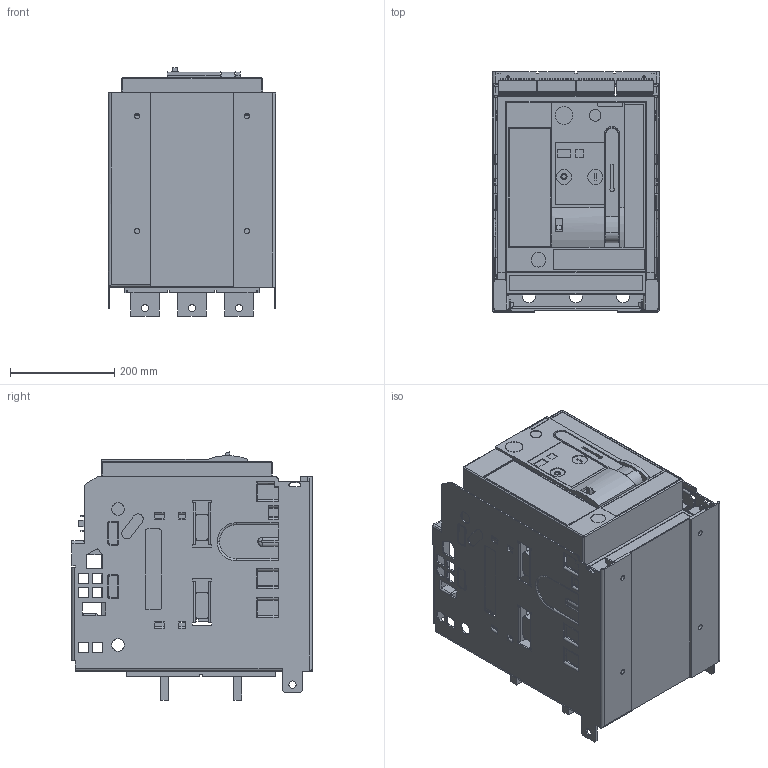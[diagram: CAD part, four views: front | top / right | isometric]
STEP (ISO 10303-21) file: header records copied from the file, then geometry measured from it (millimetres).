
FILE_DESCRIPTION (( 'STEP AP214' ), '1' );
FILE_NAME ('ARION_WL1116-___36.step', '2012-01-11T11:10:40', ( 'Radek Veselý' ), ( 'Siemens and Partners' ), 'SwSTEP 2.0', 'SolidWorks 2006303', '' );
FILE_SCHEMA (( 'AUTOMOTIVE_DESIGN' ));
Length unit declared in the file: millimetre
Products named in the file (1): ARION_WL1116-___36
Bounding box: 320 x 460 x 474.91 mm (x, y, z)
Volume: 35433286.9 mm3; surface area: 2629267 mm2
Topology: 11 solids, 11 shells, 3074 faces, 8138 edges, 5364 vertices
Faces by surface type: plane 2490, cylinder 564, torus 14, sphere 4, bspline 2
Entity records: 128411 total; most frequent: CARTESIAN_POINT 16778, ORIENTED_EDGE 16264, DIRECTION 15405, EDGE_CURVE 8132, VECTOR 6959, LINE 6959, VERTEX_POINT 5364, AXIS2_PLACEMENT_3D 4223
